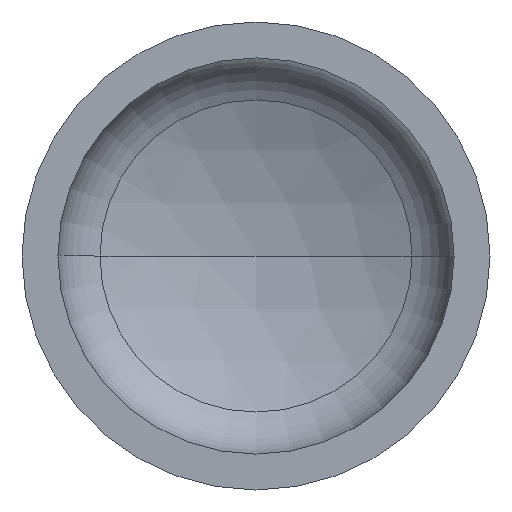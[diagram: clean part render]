
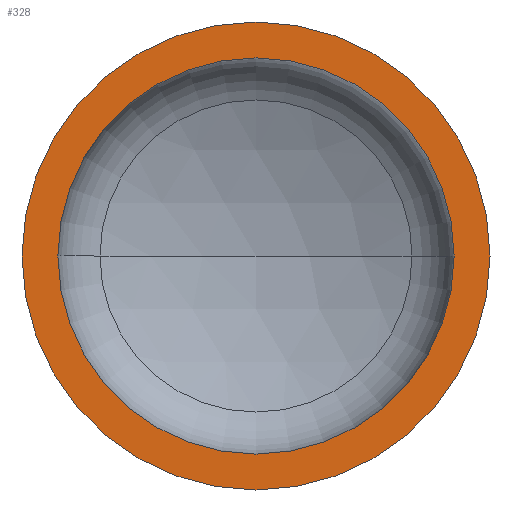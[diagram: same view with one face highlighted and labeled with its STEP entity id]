
A CAD part, front view. The second image highlights one B-rep face of the part: STEP entity #328.
In plain terms, the highlighted planar face has unit normal (0, -1, 0).
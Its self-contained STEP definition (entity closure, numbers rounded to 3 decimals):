
#8 = EDGE_LOOP ( 'NONE', ( #79, #29 ) ) ;
#13 = AXIS2_PLACEMENT_3D ( 'NONE', #324, #97, #302 ) ;
#20 = VERTEX_POINT ( 'NONE', #248 ) ;
#29 = ORIENTED_EDGE ( 'NONE', *, *, #409, .T. ) ;
#34 = VERTEX_POINT ( 'NONE', #364 ) ;
#37 = EDGE_LOOP ( 'NONE', ( #60, #118 ) ) ;
#47 = AXIS2_PLACEMENT_3D ( 'NONE', #140, #136, #366 ) ;
#55 = AXIS2_PLACEMENT_3D ( 'NONE', #166, #336, #67 ) ;
#60 = ORIENTED_EDGE ( 'NONE', *, *, #207, .F. ) ;
#66 = VERTEX_POINT ( 'NONE', #251 ) ;
#67 = DIRECTION ( 'NONE',  ( 1., 0., 0. ) ) ;
#79 = ORIENTED_EDGE ( 'NONE', *, *, #362, .T. ) ;
#90 = AXIS2_PLACEMENT_3D ( 'NONE', #128, #134, #299 ) ;
#97 = DIRECTION ( 'NONE',  ( 0., -1., 0. ) ) ;
#105 = VERTEX_POINT ( 'NONE', #232 ) ;
#118 = ORIENTED_EDGE ( 'NONE', *, *, #375, .F. ) ;
#128 = CARTESIAN_POINT ( 'NONE',  ( 0., 0., 0. ) ) ;
#134 = DIRECTION ( 'NONE',  ( 0., -1., 0. ) ) ;
#136 = DIRECTION ( 'NONE',  ( 0., 1., 0. ) ) ;
#140 = CARTESIAN_POINT ( 'NONE',  ( -600., 0., 0. ) ) ;
#162 = AXIS2_PLACEMENT_3D ( 'NONE', #305, #304, #163 ) ;
#163 = DIRECTION ( 'NONE',  ( 1., 0., 0. ) ) ;
#166 = CARTESIAN_POINT ( 'NONE',  ( 0., 0., 0. ) ) ;
#176 = CIRCLE ( 'NONE', #162, 508. ) ;
#188 = CIRCLE ( 'NONE', #13, 508. ) ;
#202 = PLANE ( 'NONE',  #47 ) ;
#207 = EDGE_CURVE ( 'NONE', #105, #20, #176, .T. ) ;
#208 = FACE_OUTER_BOUND ( 'NONE', #8, .T. ) ;
#232 = CARTESIAN_POINT ( 'NONE',  ( 508., 0., 0. ) ) ;
#248 = CARTESIAN_POINT ( 'NONE',  ( -508., 0., 0. ) ) ;
#251 = CARTESIAN_POINT ( 'NONE',  ( -600., 0., 0. ) ) ;
#274 = CIRCLE ( 'NONE', #55, 600. ) ;
#284 = FACE_BOUND ( 'NONE', #37, .T. ) ;
#299 = DIRECTION ( 'NONE',  ( 1., 0., 0. ) ) ;
#302 = DIRECTION ( 'NONE',  ( 1., 0., 0. ) ) ;
#304 = DIRECTION ( 'NONE',  ( 0., -1., 0. ) ) ;
#305 = CARTESIAN_POINT ( 'NONE',  ( 0., 0., 0. ) ) ;
#306 = CIRCLE ( 'NONE', #90, 600. ) ;
#324 = CARTESIAN_POINT ( 'NONE',  ( 0., 0., 0. ) ) ;
#328 = ADVANCED_FACE ( 'NONE', ( #284, #208 ), #202, .F. ) ;
#336 = DIRECTION ( 'NONE',  ( 0., -1., 0. ) ) ;
#362 = EDGE_CURVE ( 'NONE', #34, #66, #274, .T. ) ;
#364 = CARTESIAN_POINT ( 'NONE',  ( 600., 0., 0. ) ) ;
#366 = DIRECTION ( 'NONE',  ( -1., 0., 0. ) ) ;
#375 = EDGE_CURVE ( 'NONE', #20, #105, #188, .T. ) ;
#409 = EDGE_CURVE ( 'NONE', #66, #34, #306, .T. ) ;
